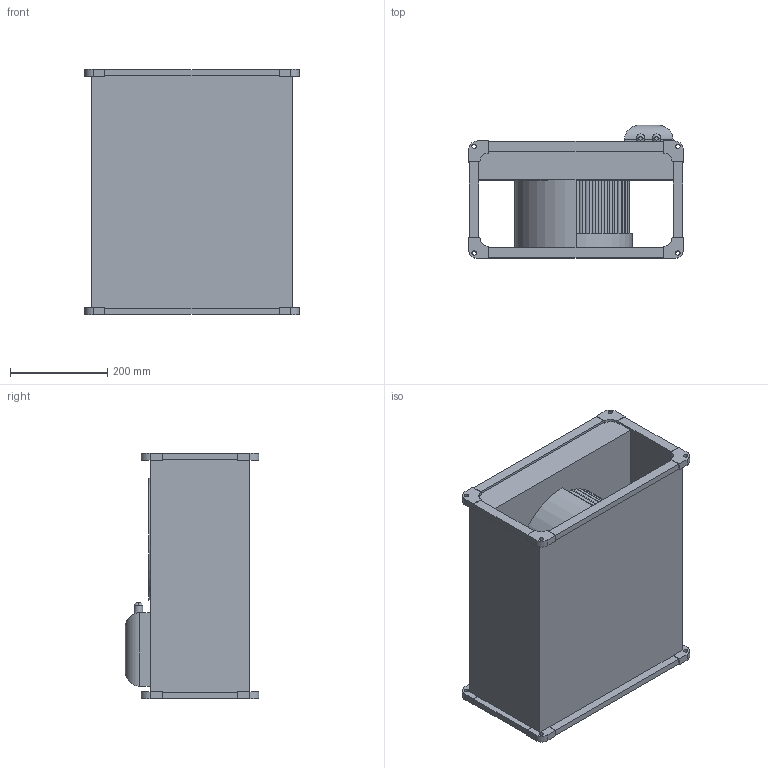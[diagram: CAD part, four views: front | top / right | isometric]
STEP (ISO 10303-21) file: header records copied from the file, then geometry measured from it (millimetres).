
FILE_DESCRIPTION(('STEP AP214'),'1');
FILE_NAME('fan_5132000000.stp','2017-03-31T18:13:06',('TraceParts'),('TraceParts S.A.'),'Spatial InterOp 3D',' ',' ');
FILE_SCHEMA(('automotive_design'));
Length unit declared in the file: millimetre
Products named in the file (1): fan_5132000000
Bounding box: 442 x 275 x 507 mm (x, y, z)
Volume: 21954421.2 mm3; surface area: 1477704.5 mm2
Topology: 1 solids, 1 shells, 257 faces, 760 edges, 506 vertices
Faces by surface type: cylinder 154, plane 99, torus 4
Entity records: 10988 total; most frequent: CARTESIAN_POINT 1688, DIRECTION 1590, ORIENTED_EDGE 1520, EDGE_CURVE 760, AXIS2_PLACEMENT_3D 576, VERTEX_POINT 506, LINE 438, VECTOR 438
